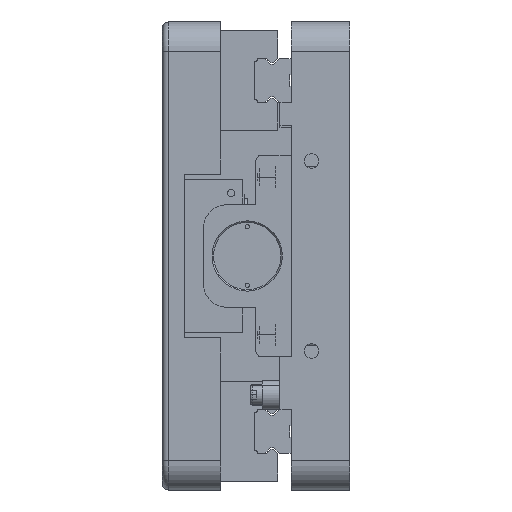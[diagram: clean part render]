
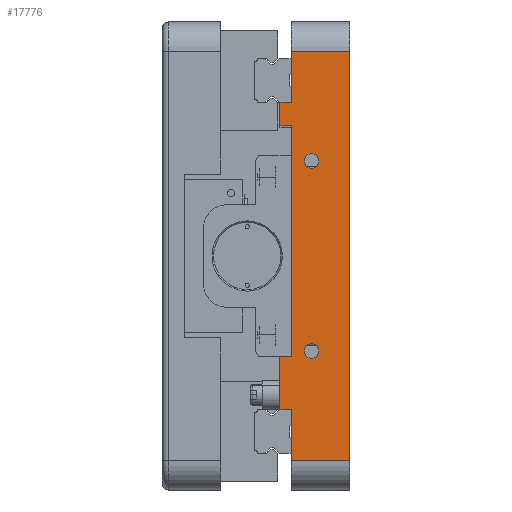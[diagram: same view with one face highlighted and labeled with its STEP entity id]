
A CAD part, left-side view. The second image highlights one B-rep face of the part: STEP entity #17776.
In plain terms, the highlighted planar face has unit normal (-1, 0, 0).
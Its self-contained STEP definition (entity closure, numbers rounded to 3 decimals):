
#1254 = LINE ( 'NONE', #82936, #59295 ) ;
#1432 = CARTESIAN_POINT ( 'NONE',  ( -311.5, 23.8, 52.5 ) ) ;
#4380 = DIRECTION ( 'NONE',  ( 0., -1., 0. ) ) ;
#4923 = LINE ( 'NONE', #84815, #14517 ) ;
#5229 = VERTEX_POINT ( 'NONE', #92194 ) ;
#5235 = ORIENTED_EDGE ( 'NONE', *, *, #96575, .T. ) ;
#5870 = CIRCLE ( 'NONE', #37536, 2.5 ) ;
#7712 = DIRECTION ( 'NONE',  ( 0., 0., 1. ) ) ;
#11585 = DIRECTION ( 'NONE',  ( 0., 0., 1. ) ) ;
#12017 = CARTESIAN_POINT ( 'NONE',  ( -311.5, 20., -34.5 ) ) ;
#12350 = ORIENTED_EDGE ( 'NONE', *, *, #43272, .F. ) ;
#13303 = LINE ( 'NONE', #56083, #19183 ) ;
#13449 = DIRECTION ( 'NONE',  ( -1., 0., 0. ) ) ;
#13514 = ORIENTED_EDGE ( 'NONE', *, *, #84694, .T. ) ;
#14192 = ORIENTED_EDGE ( 'NONE', *, *, #67663, .F. ) ;
#14517 = VECTOR ( 'NONE', #26290, 1000. ) ;
#14746 = DIRECTION ( 'NONE',  ( -1., 0., 0. ) ) ;
#17121 = ORIENTED_EDGE ( 'NONE', *, *, #27919, .F. ) ;
#17477 = DIRECTION ( 'NONE',  ( 0., 1., 0. ) ) ;
#17776 = ADVANCED_FACE ( 'NONE', ( #97669, #77616, #91817 ), #45863, .F. ) ;
#19183 = VECTOR ( 'NONE', #78175, 1000. ) ;
#20234 = CARTESIAN_POINT ( 'NONE',  ( -311.5, 23.8, -70. ) ) ;
#21703 = CARTESIAN_POINT ( 'NONE',  ( -311.5, 13., 32.5 ) ) ;
#23417 = VERTEX_POINT ( 'NONE', #12017 ) ;
#24154 = VERTEX_POINT ( 'NONE', #30375 ) ;
#24879 = LINE ( 'NONE', #20234, #82840 ) ;
#25645 = VERTEX_POINT ( 'NONE', #78353 ) ;
#25828 = CARTESIAN_POINT ( 'NONE',  ( -311.5, 23.8, 44.5 ) ) ;
#25849 = ORIENTED_EDGE ( 'NONE', *, *, #55446, .F. ) ;
#26290 = DIRECTION ( 'NONE',  ( 0., 0., 1. ) ) ;
#27176 = LINE ( 'NONE', #61376, #85124 ) ;
#27386 = DIRECTION ( 'NONE',  ( 0., 1., 0. ) ) ;
#27919 = EDGE_CURVE ( 'NONE', #45666, #43473, #13303, .T. ) ;
#28401 = VECTOR ( 'NONE', #86913, 1000. ) ;
#28988 = DIRECTION ( 'NONE',  ( 0., 0., 1. ) ) ;
#29981 = VERTEX_POINT ( 'NONE', #54313 ) ;
#30011 = EDGE_LOOP ( 'NONE', ( #12350, #14192 ) ) ;
#30312 = ORIENTED_EDGE ( 'NONE', *, *, #59312, .T. ) ;
#30375 = CARTESIAN_POINT ( 'NONE',  ( -311.5, 13., -30. ) ) ;
#31735 = ORIENTED_EDGE ( 'NONE', *, *, #62848, .T. ) ;
#33780 = VECTOR ( 'NONE', #17477, 1000. ) ;
#34358 = CARTESIAN_POINT ( 'NONE',  ( -311.5, -110.209, -34.5 ) ) ;
#35017 = CARTESIAN_POINT ( 'NONE',  ( -311.5, -623.607, 52.5 ) ) ;
#35718 = ORIENTED_EDGE ( 'NONE', *, *, #63004, .F. ) ;
#36608 = CARTESIAN_POINT ( 'NONE',  ( -311.5, 13., 32.5 ) ) ;
#37223 = ORIENTED_EDGE ( 'NONE', *, *, #50191, .T. ) ;
#37536 = AXIS2_PLACEMENT_3D ( 'NONE', #72440, #56943, #11585 ) ;
#37556 = EDGE_CURVE ( 'NONE', #84002, #57022, #4923, .T. ) ;
#37780 = VECTOR ( 'NONE', #27386, 1000. ) ;
#38370 = VERTEX_POINT ( 'NONE', #66929 ) ;
#38996 = CARTESIAN_POINT ( 'NONE',  ( -311.5, -110.209, 44.5 ) ) ;
#39477 = EDGE_CURVE ( 'NONE', #42965, #64900, #48525, .T. ) ;
#39883 = EDGE_LOOP ( 'NONE', ( #87935, #35718 ) ) ;
#40011 = CARTESIAN_POINT ( 'NONE',  ( -311.5, 23.8, 70. ) ) ;
#40223 = CARTESIAN_POINT ( 'NONE',  ( -311.5, 23.8, -34.5 ) ) ;
#41334 = EDGE_LOOP ( 'NONE', ( #5235, #30312, #56471, #75589, #31735, #91136, #57460, #49037, #13514, #37223, #17121, #25849 ) ) ;
#41968 = DIRECTION ( 'NONE',  ( 0., 1., 0. ) ) ;
#42432 = LINE ( 'NONE', #35017, #37780 ) ;
#42965 = VERTEX_POINT ( 'NONE', #85911 ) ;
#43272 = EDGE_CURVE ( 'NONE', #57019, #29981, #79855, .T. ) ;
#43473 = VERTEX_POINT ( 'NONE', #40223 ) ;
#45267 = AXIS2_PLACEMENT_3D ( 'NONE', #60809, #46832, #77216 ) ;
#45384 = CARTESIAN_POINT ( 'NONE',  ( -311.5, 13., -32.5 ) ) ;
#45543 = CIRCLE ( 'NONE', #67293, 2.5 ) ;
#45666 = VERTEX_POINT ( 'NONE', #48515 ) ;
#45863 = PLANE ( 'NONE',  #45267 ) ;
#46720 = EDGE_CURVE ( 'NONE', #63107, #57022, #42432, .T. ) ;
#46832 = DIRECTION ( 'NONE',  ( 1., 0., 0. ) ) ;
#48190 = LINE ( 'NONE', #51023, #48311 ) ;
#48311 = VECTOR ( 'NONE', #58000, 1000. ) ;
#48515 = CARTESIAN_POINT ( 'NONE',  ( -311.5, 23.8, -52.5 ) ) ;
#48525 = LINE ( 'NONE', #40011, #28401 ) ;
#49037 = ORIENTED_EDGE ( 'NONE', *, *, #67348, .F. ) ;
#50191 = EDGE_CURVE ( 'NONE', #23417, #43473, #89026, .T. ) ;
#51023 = CARTESIAN_POINT ( 'NONE',  ( -311.5, 20., -80. ) ) ;
#53050 = DIRECTION ( 'NONE',  ( -1., 0., 0. ) ) ;
#53568 = CARTESIAN_POINT ( 'NONE',  ( -311.5, 20., 70. ) ) ;
#54313 = CARTESIAN_POINT ( 'NONE',  ( -311.5, 13., 30. ) ) ;
#54546 = CIRCLE ( 'NONE', #64234, 2.5 ) ;
#55446 = EDGE_CURVE ( 'NONE', #38370, #45666, #27176, .T. ) ;
#56083 = CARTESIAN_POINT ( 'NONE',  ( -311.5, 23.8, -80. ) ) ;
#56471 = ORIENTED_EDGE ( 'NONE', *, *, #93318, .T. ) ;
#56943 = DIRECTION ( 'NONE',  ( -1., 0., 0. ) ) ;
#57019 = VERTEX_POINT ( 'NONE', #76164 ) ;
#57022 = VERTEX_POINT ( 'NONE', #1432 ) ;
#57460 = ORIENTED_EDGE ( 'NONE', *, *, #37556, .F. ) ;
#58000 = DIRECTION ( 'NONE',  ( 0., 0., -1. ) ) ;
#59178 = DIRECTION ( 'NONE',  ( 0., 0., 1. ) ) ;
#59295 = VECTOR ( 'NONE', #75069, 1000. ) ;
#59312 = EDGE_CURVE ( 'NONE', #25645, #87031, #24879, .T. ) ;
#60809 = CARTESIAN_POINT ( 'NONE',  ( -311.5, 23.8, -80. ) ) ;
#61376 = CARTESIAN_POINT ( 'NONE',  ( -311.5, -623.607, -52.5 ) ) ;
#62848 = EDGE_CURVE ( 'NONE', #64900, #63107, #91604, .T. ) ;
#63004 = EDGE_CURVE ( 'NONE', #92860, #24154, #5870, .T. ) ;
#63107 = VERTEX_POINT ( 'NONE', #66510 ) ;
#64234 = AXIS2_PLACEMENT_3D ( 'NONE', #45384, #53050, #7712 ) ;
#64900 = VERTEX_POINT ( 'NONE', #53568 ) ;
#66510 = CARTESIAN_POINT ( 'NONE',  ( -311.5, 20., 52.5 ) ) ;
#66929 = CARTESIAN_POINT ( 'NONE',  ( -311.5, 20., -52.5 ) ) ;
#67293 = AXIS2_PLACEMENT_3D ( 'NONE', #36608, #13449, #59178 ) ;
#67348 = EDGE_CURVE ( 'NONE', #5229, #84002, #96383, .T. ) ;
#67663 = EDGE_CURVE ( 'NONE', #29981, #57019, #45543, .T. ) ;
#67793 = VECTOR ( 'NONE', #41968, 1000. ) ;
#69307 = DIRECTION ( 'NONE',  ( 0., 1., 0. ) ) ;
#72440 = CARTESIAN_POINT ( 'NONE',  ( -311.5, 13., -32.5 ) ) ;
#75069 = DIRECTION ( 'NONE',  ( 0., 0., 1. ) ) ;
#75589 = ORIENTED_EDGE ( 'NONE', *, *, #39477, .T. ) ;
#76164 = CARTESIAN_POINT ( 'NONE',  ( -311.5, 13., 35. ) ) ;
#77216 = DIRECTION ( 'NONE',  ( 0., 0., -1. ) ) ;
#77616 = FACE_BOUND ( 'NONE', #30011, .T. ) ;
#78175 = DIRECTION ( 'NONE',  ( 0., 0., 1. ) ) ;
#78353 = CARTESIAN_POINT ( 'NONE',  ( -311.5, 20., -70. ) ) ;
#79855 = CIRCLE ( 'NONE', #92530, 2.5 ) ;
#80555 = DIRECTION ( 'NONE',  ( 0., 0., -1. ) ) ;
#82840 = VECTOR ( 'NONE', #4380, 1000. ) ;
#82936 = CARTESIAN_POINT ( 'NONE',  ( -311.5, 0., -80. ) ) ;
#83167 = VECTOR ( 'NONE', #80555, 1000. ) ;
#84002 = VERTEX_POINT ( 'NONE', #25828 ) ;
#84232 = CARTESIAN_POINT ( 'NONE',  ( -311.5, 20., 80. ) ) ;
#84694 = EDGE_CURVE ( 'NONE', #5229, #23417, #85553, .T. ) ;
#84815 = CARTESIAN_POINT ( 'NONE',  ( -311.5, 23.8, -80. ) ) ;
#84885 = DIRECTION ( 'NONE',  ( 0., 0., -1. ) ) ;
#85124 = VECTOR ( 'NONE', #69307, 1000. ) ;
#85553 = LINE ( 'NONE', #88818, #83167 ) ;
#85911 = CARTESIAN_POINT ( 'NONE',  ( -311.5, 0., 70. ) ) ;
#86913 = DIRECTION ( 'NONE',  ( 0., 1., 0. ) ) ;
#87031 = VERTEX_POINT ( 'NONE', #94425 ) ;
#87887 = EDGE_CURVE ( 'NONE', #24154, #92860, #54546, .T. ) ;
#87935 = ORIENTED_EDGE ( 'NONE', *, *, #87887, .F. ) ;
#88818 = CARTESIAN_POINT ( 'NONE',  ( -311.5, 20., 44.5 ) ) ;
#89026 = LINE ( 'NONE', #34358, #67793 ) ;
#91136 = ORIENTED_EDGE ( 'NONE', *, *, #46720, .T. ) ;
#91604 = LINE ( 'NONE', #84232, #95087 ) ;
#91816 = CARTESIAN_POINT ( 'NONE',  ( -311.5, 13., -35. ) ) ;
#91817 = FACE_OUTER_BOUND ( 'NONE', #41334, .T. ) ;
#92194 = CARTESIAN_POINT ( 'NONE',  ( -311.5, 20., 44.5 ) ) ;
#92530 = AXIS2_PLACEMENT_3D ( 'NONE', #21703, #14746, #28988 ) ;
#92860 = VERTEX_POINT ( 'NONE', #91816 ) ;
#93318 = EDGE_CURVE ( 'NONE', #87031, #42965, #1254, .T. ) ;
#94425 = CARTESIAN_POINT ( 'NONE',  ( -311.5, 0., -70. ) ) ;
#95087 = VECTOR ( 'NONE', #84885, 1000. ) ;
#96383 = LINE ( 'NONE', #38996, #33780 ) ;
#96575 = EDGE_CURVE ( 'NONE', #38370, #25645, #48190, .T. ) ;
#97669 = FACE_BOUND ( 'NONE', #39883, .T. ) ;
